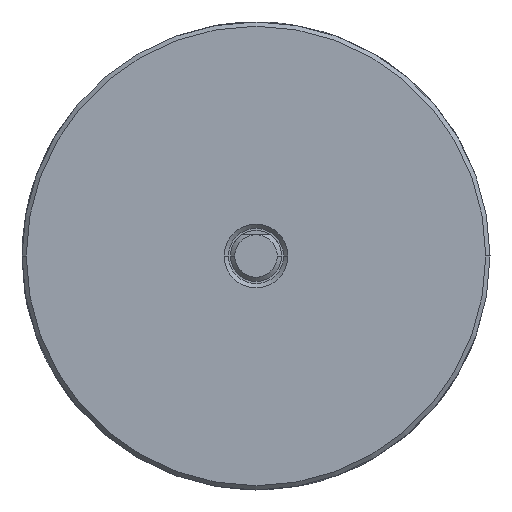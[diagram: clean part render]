
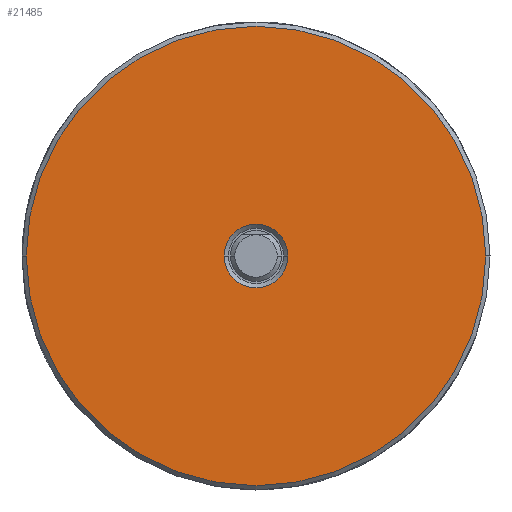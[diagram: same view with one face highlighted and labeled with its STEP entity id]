
A CAD part, left-side view. The second image highlights one B-rep face of the part: STEP entity #21485.
In plain terms, the highlighted planar face has unit normal (-1, 0, 0).
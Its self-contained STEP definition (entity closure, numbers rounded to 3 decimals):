
#11390 = CARTESIAN_POINT ( 'NONE',  ( 20., 27., 0. ) ) ;
#21342 = EDGE_CURVE ( 'NONE', #21344, #21512, #28567, .T. ) ;
#21344 = VERTEX_POINT ( 'NONE', #28562 ) ;
#21485 = ADVANCED_FACE ( 'NONE', ( #28930, #28925 ), #28924, .T. ) ;
#21486 = EDGE_LOOP ( 'NONE', ( #21487, #21488 ) ) ;
#21487 = ORIENTED_EDGE ( 'NONE', *, *, #21342, .T. ) ;
#21488 = ORIENTED_EDGE ( 'NONE', *, *, #21489, .T. ) ;
#21489 = EDGE_CURVE ( 'NONE', #21512, #21344, #28919, .T. ) ;
#21490 = EDGE_LOOP ( 'NONE', ( #21491, #21493 ) ) ;
#21491 = ORIENTED_EDGE ( 'NONE', *, *, #21492, .T. ) ;
#21492 = EDGE_CURVE ( 'NONE', #27579, #28300, #28914, .T. ) ;
#21493 = ORIENTED_EDGE ( 'NONE', *, *, #28299, .T. ) ;
#21512 = VERTEX_POINT ( 'NONE', #28976 ) ;
#23276 = AXIS2_PLACEMENT_3D ( 'NONE', #23412, #23410, #23408 ) ;
#23288 = CIRCLE ( 'NONE', #23276, 27. ) ;
#23406 = CARTESIAN_POINT ( 'NONE',  ( 20., -27., 0. ) ) ;
#23408 = DIRECTION ( 'NONE',  ( 0., -1., 0. ) ) ;
#23410 = DIRECTION ( 'NONE',  ( -1., 0., 0. ) ) ;
#23412 = CARTESIAN_POINT ( 'NONE',  ( 20., 0., 0. ) ) ;
#27579 = VERTEX_POINT ( 'NONE', #11390 ) ;
#28299 = EDGE_CURVE ( 'NONE', #28300, #27579, #23288, .T. ) ;
#28300 = VERTEX_POINT ( 'NONE', #23406 ) ;
#28562 = CARTESIAN_POINT ( 'NONE',  ( 20., -3.75, 0. ) ) ;
#28563 = DIRECTION ( 'NONE',  ( 0., -1., 0. ) ) ;
#28564 = DIRECTION ( 'NONE',  ( 1., 0., 0. ) ) ;
#28565 = CARTESIAN_POINT ( 'NONE',  ( 20., 0., 0. ) ) ;
#28566 = AXIS2_PLACEMENT_3D ( 'NONE', #28565, #28564, #28563 ) ;
#28567 = CIRCLE ( 'NONE', #28566, 3.75 ) ;
#28910 = DIRECTION ( 'NONE',  ( 0., -1., 0. ) ) ;
#28911 = DIRECTION ( 'NONE',  ( -1., 0., 0. ) ) ;
#28912 = CARTESIAN_POINT ( 'NONE',  ( 20., 0., 0. ) ) ;
#28913 = AXIS2_PLACEMENT_3D ( 'NONE', #28912, #28911, #28910 ) ;
#28914 = CIRCLE ( 'NONE', #28913, 27. ) ;
#28915 = DIRECTION ( 'NONE',  ( 0., -1., 0. ) ) ;
#28916 = DIRECTION ( 'NONE',  ( 1., 0., 0. ) ) ;
#28917 = CARTESIAN_POINT ( 'NONE',  ( 20., 0., 0. ) ) ;
#28918 = AXIS2_PLACEMENT_3D ( 'NONE', #28917, #28916, #28915 ) ;
#28919 = CIRCLE ( 'NONE', #28918, 3.75 ) ;
#28920 = DIRECTION ( 'NONE',  ( 0., -1., 0. ) ) ;
#28921 = DIRECTION ( 'NONE',  ( -1., 0., 0. ) ) ;
#28922 = CARTESIAN_POINT ( 'NONE',  ( 20., 3., 0. ) ) ;
#28923 = AXIS2_PLACEMENT_3D ( 'NONE', #28922, #28921, #28920 ) ;
#28924 = PLANE ( 'NONE',  #28923 ) ;
#28925 = FACE_OUTER_BOUND ( 'NONE', #21490, .T. ) ;
#28930 = FACE_BOUND ( 'NONE', #21486, .T. ) ;
#28976 = CARTESIAN_POINT ( 'NONE',  ( 20., 3.75, 0. ) ) ;
